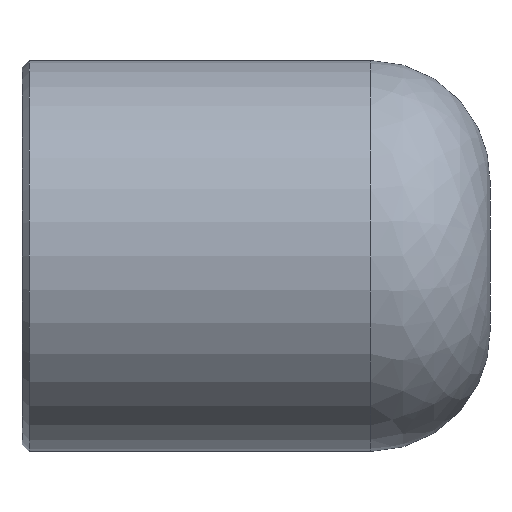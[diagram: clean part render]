
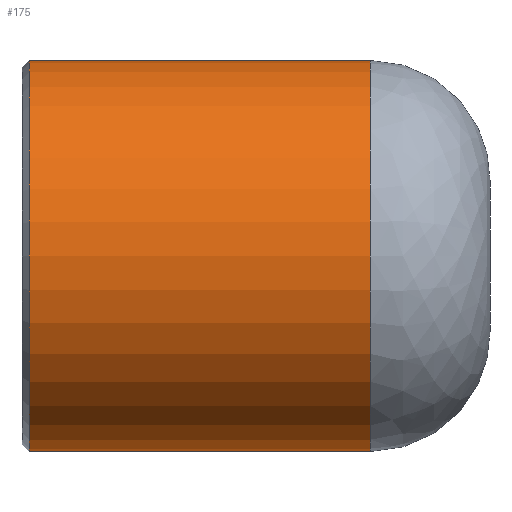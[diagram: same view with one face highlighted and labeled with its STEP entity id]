
A CAD part, front view. The second image highlights one B-rep face of the part: STEP entity #175.
In plain terms, the highlighted cylindrical face has radius 5.473 mm (diameter 10.945 mm), a full revolution.
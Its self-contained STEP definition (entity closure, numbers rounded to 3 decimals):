
#144=CARTESIAN_POINT('',(0.2,5.473,0.));
#145=VERTEX_POINT('',#144);
#146=CARTESIAN_POINT('',(0.2,0.0,0.0));
#147=DIRECTION('',(-1.0,0.0,0.0));
#148=DIRECTION('',(0.0,-1.0,0.0));
#149=AXIS2_PLACEMENT_3D('',#146,#147,#148);
#150=CIRCLE('',#149,5.473);
#151=EDGE_CURVE('',#145,#145,#150,.T.);
#156=CARTESIAN_POINT('',(4.875,0.0,0.0));
#157=DIRECTION('',(1.0,0.0,0.0));
#158=DIRECTION('',(0.0,1.0,0.0));
#159=AXIS2_PLACEMENT_3D('',#156,#157,#158);
#160=CYLINDRICAL_SURFACE('',#159,5.473);
#161=CARTESIAN_POINT('',(9.75,5.473,0.0));
#162=VERTEX_POINT('',#161);
#163=CARTESIAN_POINT('',(9.75,0.0,0.0));
#164=DIRECTION('',(1.0,0.0,0.0));
#165=DIRECTION('',(0.0,1.0,0.0));
#166=AXIS2_PLACEMENT_3D('',#163,#164,#165);
#167=CIRCLE('',#166,5.473);
#168=EDGE_CURVE('',#162,#162,#167,.T.);
#169=ORIENTED_EDGE('',*,*,#168,.F.);
#170=EDGE_LOOP('',(#169));
#171=FACE_OUTER_BOUND('',#170,.T.);
#172=ORIENTED_EDGE('',*,*,#151,.F.);
#173=EDGE_LOOP('',(#172));
#174=FACE_BOUND('',#173,.T.);
#175=ADVANCED_FACE('',(#171,#174),#160,.T.);
